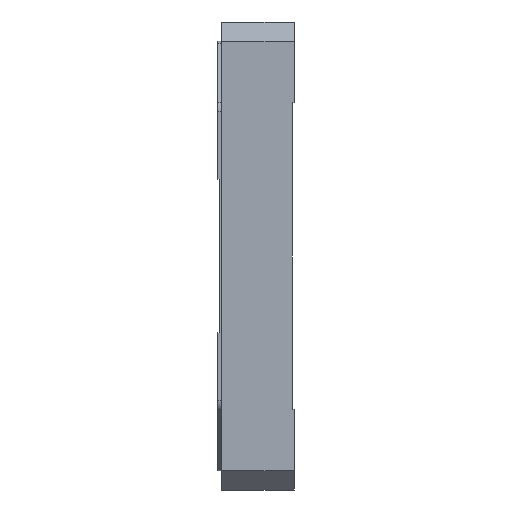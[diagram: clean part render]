
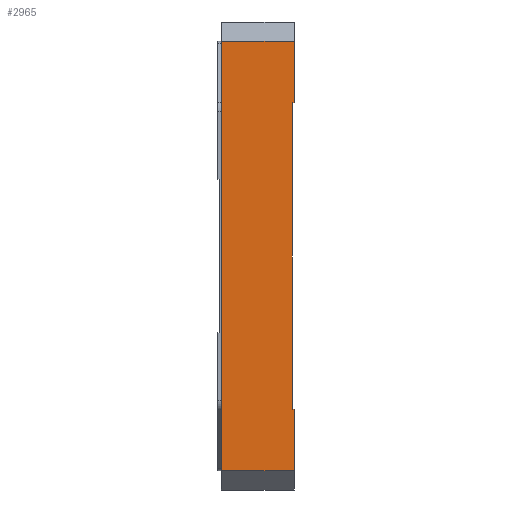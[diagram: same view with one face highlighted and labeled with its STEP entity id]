
A CAD part, left-side view. The second image highlights one B-rep face of the part: STEP entity #2965.
In plain terms, the highlighted planar face has unit normal (-1, 0, 0).
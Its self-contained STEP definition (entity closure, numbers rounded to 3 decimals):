
#126 = CARTESIAN_POINT ( 'NONE',  ( -76., 19., 56. ) ) ;
#220 = VECTOR ( 'NONE', #4379, 1000. ) ;
#229 = PLANE ( 'NONE',  #4523 ) ;
#265 = LINE ( 'NONE', #1829, #3107 ) ;
#368 = DIRECTION ( 'NONE',  ( 0., -1., 0. ) ) ;
#376 = DIRECTION ( 'NONE',  ( 0., 0., -1. ) ) ;
#389 = EDGE_CURVE ( 'NONE', #2971, #1709, #2743, .T. ) ;
#546 = EDGE_CURVE ( 'NONE', #3639, #4972, #2867, .T. ) ;
#564 = VECTOR ( 'NONE', #376, 1000. ) ;
#584 = ORIENTED_EDGE ( 'NONE', *, *, #2473, .T. ) ;
#660 = VECTOR ( 'NONE', #2852, 1000. ) ;
#662 = DIRECTION ( 'NONE',  ( 0., 0., -1. ) ) ;
#710 = CARTESIAN_POINT ( 'NONE',  ( -76., 0.5, -40. ) ) ;
#782 = VERTEX_POINT ( 'NONE', #126 ) ;
#823 = DIRECTION ( 'NONE',  ( 0., -1., 0. ) ) ;
#1147 = CARTESIAN_POINT ( 'NONE',  ( -76., 0.5, 0. ) ) ;
#1361 = ORIENTED_EDGE ( 'NONE', *, *, #389, .F. ) ;
#1616 = EDGE_CURVE ( 'NONE', #2633, #782, #2535, .T. ) ;
#1647 = CARTESIAN_POINT ( 'NONE',  ( -76., 19., -56. ) ) ;
#1709 = VERTEX_POINT ( 'NONE', #2702 ) ;
#1727 = CARTESIAN_POINT ( 'NONE',  ( -76., 0., -40. ) ) ;
#1783 = LINE ( 'NONE', #710, #2875 ) ;
#1829 = CARTESIAN_POINT ( 'NONE',  ( -76., 0., -61. ) ) ;
#1884 = CARTESIAN_POINT ( 'NONE',  ( -76., 19., -61. ) ) ;
#2026 = ORIENTED_EDGE ( 'NONE', *, *, #546, .T. ) ;
#2268 = ORIENTED_EDGE ( 'NONE', *, *, #3963, .T. ) ;
#2473 = EDGE_CURVE ( 'NONE', #2633, #3639, #3105, .T. ) ;
#2500 = DIRECTION ( 'NONE',  ( 0., -1., 0. ) ) ;
#2535 = LINE ( 'NONE', #2683, #4553 ) ;
#2633 = VERTEX_POINT ( 'NONE', #5067 ) ;
#2683 = CARTESIAN_POINT ( 'NONE',  ( -76., 19., -61. ) ) ;
#2702 = CARTESIAN_POINT ( 'NONE',  ( -76., 0.5, -40. ) ) ;
#2743 = LINE ( 'NONE', #1147, #564 ) ;
#2761 = ORIENTED_EDGE ( 'NONE', *, *, #1616, .F. ) ;
#2852 = DIRECTION ( 'NONE',  ( 0., 1., 0. ) ) ;
#2855 = VECTOR ( 'NONE', #2500, 1000. ) ;
#2867 = LINE ( 'NONE', #3160, #220 ) ;
#2875 = VECTOR ( 'NONE', #368, 1000. ) ;
#2884 = VERTEX_POINT ( 'NONE', #3581 ) ;
#2928 = CARTESIAN_POINT ( 'NONE',  ( -76., 0., -56. ) ) ;
#2941 = ORIENTED_EDGE ( 'NONE', *, *, #4067, .T. ) ;
#2965 = ADVANCED_FACE ( 'NONE', ( #4206 ), #229, .F. ) ;
#2971 = VERTEX_POINT ( 'NONE', #4742 ) ;
#3051 = EDGE_CURVE ( 'NONE', #1709, #4972, #1783, .T. ) ;
#3081 = VERTEX_POINT ( 'NONE', #3229 ) ;
#3105 = LINE ( 'NONE', #1647, #5076 ) ;
#3107 = VECTOR ( 'NONE', #3178, 1000. ) ;
#3135 = DIRECTION ( 'NONE',  ( 1., 0., 0. ) ) ;
#3160 = CARTESIAN_POINT ( 'NONE',  ( -76., 0., -61. ) ) ;
#3178 = DIRECTION ( 'NONE',  ( 0., 0., 1. ) ) ;
#3229 = CARTESIAN_POINT ( 'NONE',  ( -76., 0., 56. ) ) ;
#3581 = CARTESIAN_POINT ( 'NONE',  ( -76., 0., 40. ) ) ;
#3609 = EDGE_CURVE ( 'NONE', #2971, #2884, #4625, .T. ) ;
#3639 = VERTEX_POINT ( 'NONE', #2928 ) ;
#3963 = EDGE_CURVE ( 'NONE', #2884, #3081, #265, .T. ) ;
#4067 = EDGE_CURVE ( 'NONE', #3081, #782, #4088, .T. ) ;
#4088 = LINE ( 'NONE', #4538, #660 ) ;
#4206 = FACE_OUTER_BOUND ( 'NONE', #4474, .T. ) ;
#4368 = DIRECTION ( 'NONE',  ( 0., 0., 1. ) ) ;
#4379 = DIRECTION ( 'NONE',  ( 0., 0., 1. ) ) ;
#4474 = EDGE_LOOP ( 'NONE', ( #4994, #1361, #4522, #2268, #2941, #2761, #584, #2026 ) ) ;
#4522 = ORIENTED_EDGE ( 'NONE', *, *, #3609, .T. ) ;
#4523 = AXIS2_PLACEMENT_3D ( 'NONE', #1884, #3135, #662 ) ;
#4538 = CARTESIAN_POINT ( 'NONE',  ( -76., 19., 56. ) ) ;
#4553 = VECTOR ( 'NONE', #4368, 1000. ) ;
#4600 = CARTESIAN_POINT ( 'NONE',  ( -76., 0.5, 40. ) ) ;
#4625 = LINE ( 'NONE', #4600, #2855 ) ;
#4742 = CARTESIAN_POINT ( 'NONE',  ( -76., 0.5, 40. ) ) ;
#4972 = VERTEX_POINT ( 'NONE', #1727 ) ;
#4994 = ORIENTED_EDGE ( 'NONE', *, *, #3051, .F. ) ;
#5067 = CARTESIAN_POINT ( 'NONE',  ( -76., 19., -56. ) ) ;
#5076 = VECTOR ( 'NONE', #823, 1000. ) ;
